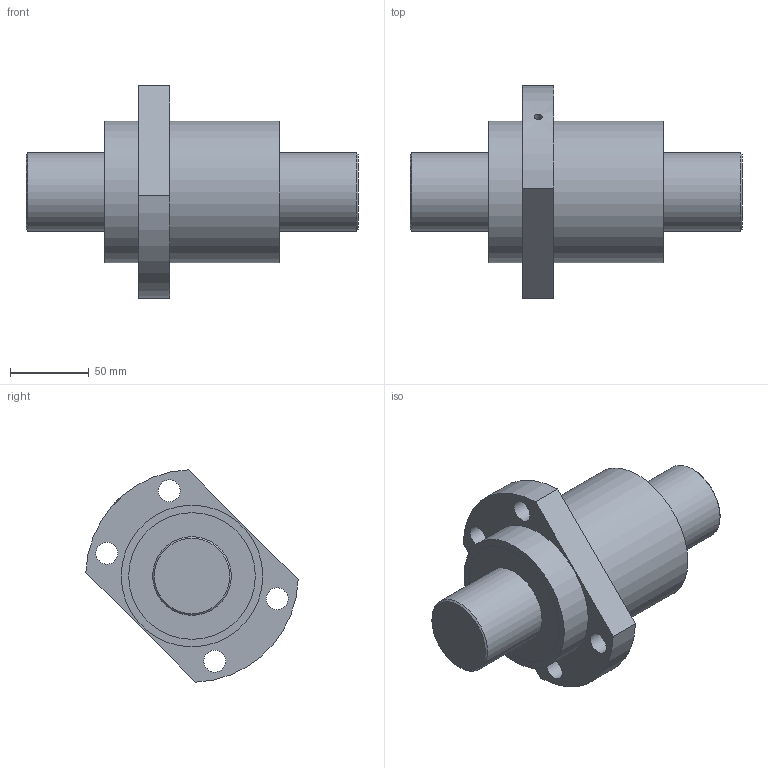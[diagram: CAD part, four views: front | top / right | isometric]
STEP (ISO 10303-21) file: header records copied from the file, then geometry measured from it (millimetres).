
FILE_DESCRIPTION (( 'STEP AP203' ), '1' );
FILE_NAME ('SFY050100-1.6.STEP', '2023-08-17T00:38:28', ( '' ), ( '' ), 'SwSTEP 2.0', 'SolidWorks 2022', '' );
FILE_SCHEMA (( 'CONFIG_CONTROL_DESIGN' ));
Length unit declared in the file: millimetre
Products named in the file (1): SFY050100-1.6
Bounding box: 211 x 134.91 x 134.91 mm (x, y, z)
Volume: 990035.5 mm3; surface area: 131619.5 mm2
Topology: 4 solids, 4 shells, 52 faces, 93 edges, 63 vertices
Faces by surface type: cylinder 27, plane 23, cone 2
Full cylindrical faces by diameter (mm): 4 x1, 5 x1, 14 x4, 50 x4, 79 x4, 80.5 x4, 82 x4, 90 x2
Entity records: 1411 total; most frequent: CARTESIAN_POINT 371, DIRECTION 218, ORIENTED_EDGE 124, EDGE_LOOP 106, AXIS2_PLACEMENT_3D 105, FACE_OUTER_BOUND 76, EDGE_CURVE 62, VERTEX_POINT 58
